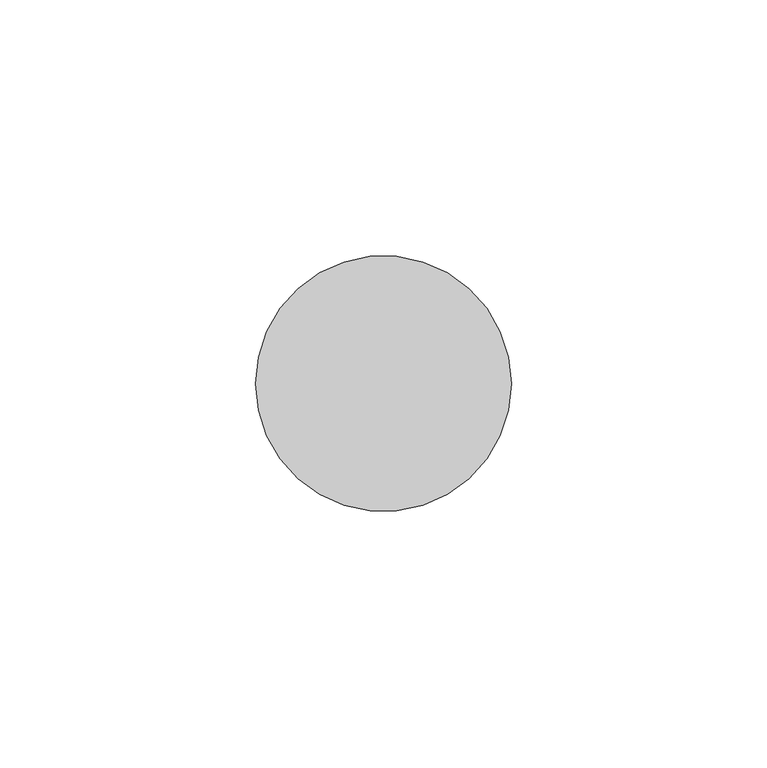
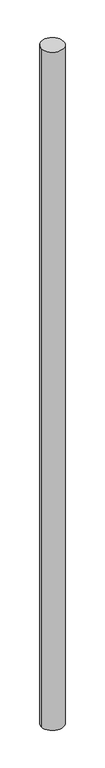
"""IFC4 building model written with IfcOpenShell, lengths in millimetres: member geometry, 圓形豎框 : 25mm 半徑."""

from ifc_helpers import new_model, si_unit, point, frame, origin, origin_2d, place, context, project, spatial, circle_curve, trimmed, segment, composite_curve, outline, extrude, source, transform, mapped, element, save


def member_2abb22e4(model_context):
    return source(origin(), model_context, "Body", "SweptSolid", [
        extrude(outline(composite_curve([segment(trimmed(circle_curve(origin_2d(), 25.0), [point((25.0, 0.0))], [point((-25.0, 0.0))], False, "CARTESIAN"), True, "CONTINUOUS"), segment(trimmed(circle_curve(origin_2d(), 25.0), [point((-25.0, 0.0))], [point((25.0, 0.0))], False, "CARTESIAN"), True, "CONTINUOUS")], self_intersect=False)), frame((0.0, 0.0, -1619.9593981), z_axis=(0.0, 0.0, 1.0), x_axis=(1.0, 0.0, 0.0)), (0.0, 0.0, 1.0), 1619.9593981),
    ])


if __name__ == "__main__":
    model = new_model("IFC4")
    model_context = context("Model", 3, world=origin())
    ifc_project = project(units=[si_unit("LENGTHUNIT", "METRE", prefix="MILLI")], contexts=[model_context])
    site = spatial("IfcSite", under=ifc_project)
    building = spatial("IfcBuilding", under=site)
    placement = place(None, origin())
    member_shape = member_2abb22e4(model_context)
    element("IfcMember", 1, ObjectType="圓形豎框 : 25mm 半徑", at=placement, inside=building, context=model_context, shape_type="MappedRepresentation", body=[
        mapped(member_shape, transform((0.0, 0.0, 0.0), x_axis=(1.0, 0.0, 0.0), y_axis=(0.0, 1.0, 0.0), z_axis=(0.0, 0.0, 1.0))),
    ])
    save(model, "model.ifc")
